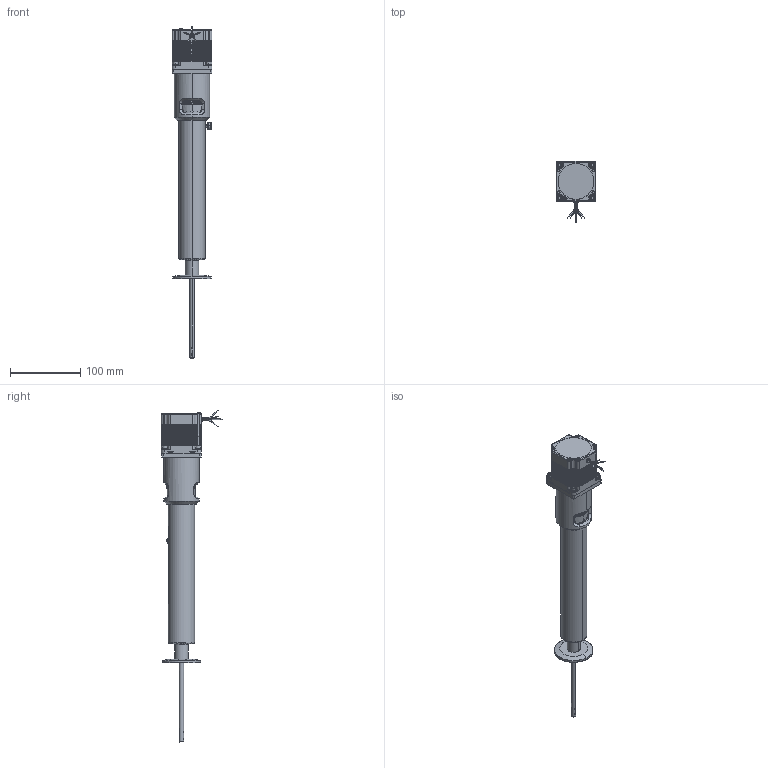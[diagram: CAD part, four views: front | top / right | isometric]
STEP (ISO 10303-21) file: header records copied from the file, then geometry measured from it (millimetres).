
FILE_DESCRIPTION (( 'STEP AP203' ), '1' );
FILE_NAME ('113081.12.stp', '2019-03-12T20:16:33', ( '' ), ( '' ), 'SwSTEP 2.0', 'SolidWorks 2012', '' );
FILE_SCHEMA (( 'CONFIG_CONTROL_DESIGN' ));
Products named in the file (1): 113081.12
Bounding box: 56.9 x 87.06 x 472.94 mm (x, y, z)
Volume: 543548.8 mm3; surface area: 69017.2 mm2
Topology: 1 solids, 2 shells, 3637 faces, 8323 edges, 4754 vertices
Faces by surface type: plane 1743, cone 850, cylinder 839, bspline 205
Entity records: 125556 total; most frequent: CARTESIAN_POINT 45716, ORIENTED_EDGE 16610, DIRECTION 16454, EDGE_CURVE 8305, AXIS2_PLACEMENT_3D 5666, LINE 5122, VECTOR 5122, VERTEX_POINT 4746
